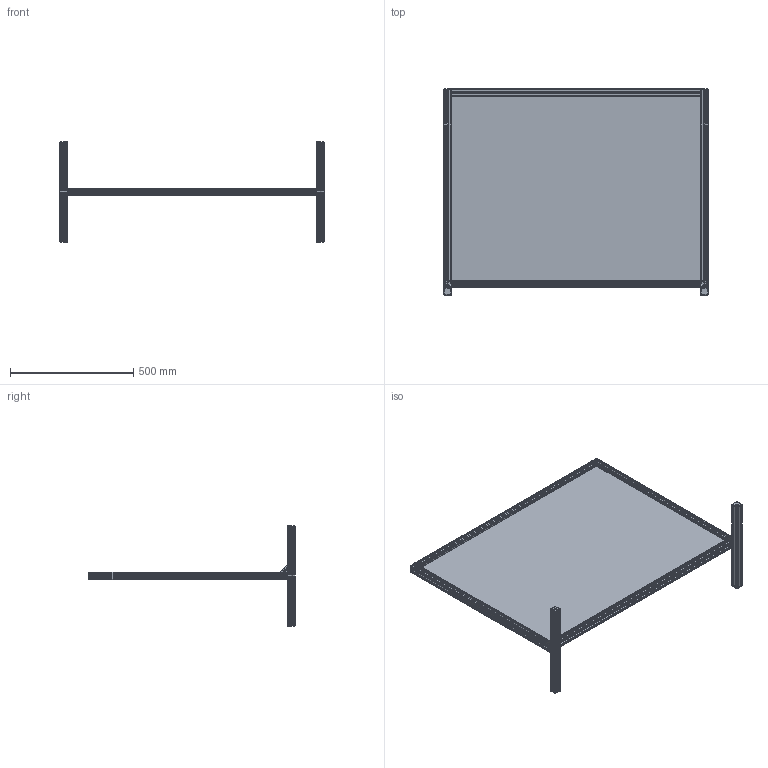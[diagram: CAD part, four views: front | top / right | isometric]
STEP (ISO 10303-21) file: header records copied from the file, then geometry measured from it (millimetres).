
FILE_DESCRIPTION (( 'STEP AP214' ), '1' );
FILE_NAME ('kit protection_option pieds.STEP', '2020-04-24T13:17:09', ( '' ), ( '' ), 'SwSTEP 2.0', 'SolidWorks 2018', '' );
FILE_SCHEMA (( 'AUTOMOTIVE_DESIGN' ));
Length unit declared in the file: millimetre
Products named in the file (9): 30X30_reglable_802 mm; 30X30_reglable_1011 mm; kit protection_option pieds; PLQ_PCI_E04_1025x760; TACHRV8NO_reglable_1011 mm; 30X30_reglable_400 mm; Equerre de fixation 30x30; TAVIS8AL_S8X25.step; fath_091027
Assembly tree (21 placements, depth 2):
  kit protection_option pieds
    PLQ_PCI_E04_1025x760
    30X30_reglable_1011 mm  x2
    30X30_reglable_802 mm  x2
    30X30_reglable_400 mm  x2
    Equerre de fixation 30x30  x2
    fath_091027  x6
    TACHRV8NO_reglable_1011 mm  x2
    TAVIS8AL_S8X25.step  x4
Bounding box: 1071 x 836 x 408 mm (x, y, z)
Volume: 4628913.2 mm3; surface area: 3309273 mm2
Topology: 23 solids, 23 shells, 2352 faces, 6520 edges, 4212 vertices
Faces by surface type: plane 1360, cylinder 764, cone 76, torus 68, sphere 56, bspline 28
Entity records: 31919 total; most frequent: CARTESIAN_POINT 7151, ORIENTED_EDGE 5230, DIRECTION 5011, EDGE_CURVE 2615, LINE 1713, VECTOR 1713, VERTEX_POINT 1708, AXIS2_PLACEMENT_3D 1649
